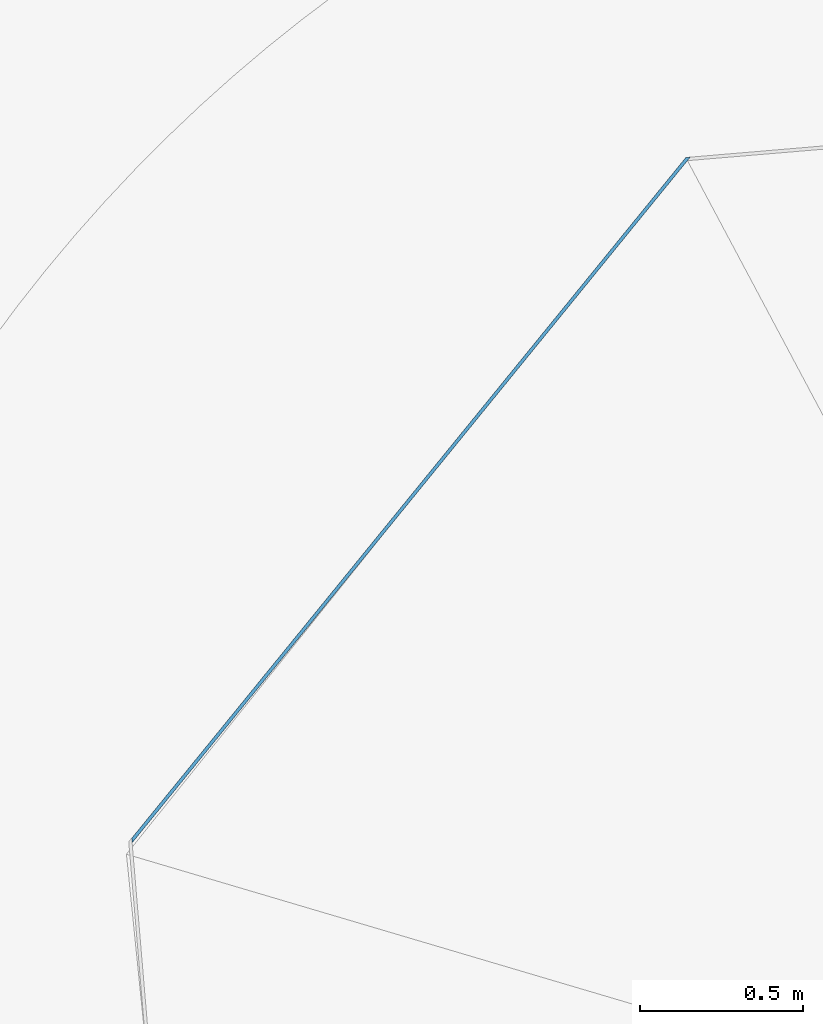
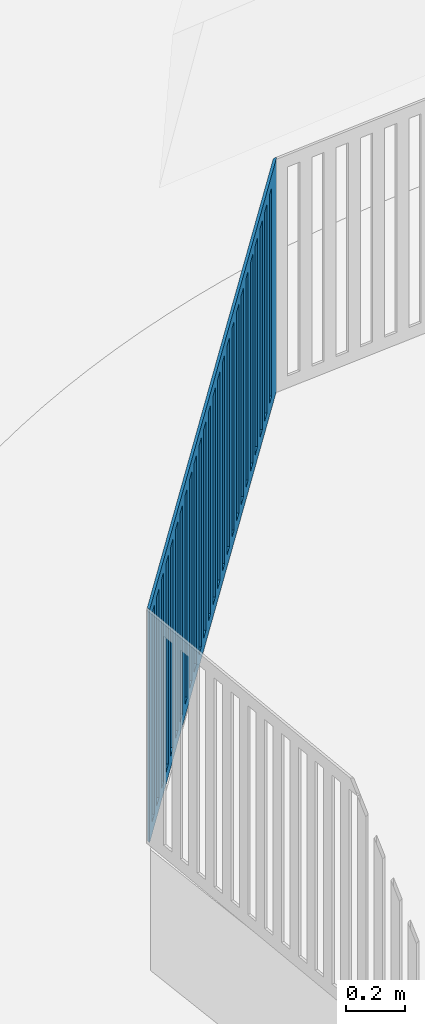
# One storey, part 29 of 75: 1 wall, 26 openings.
"""IFC2X3 building model written with IfcOpenShell, lengths in metres."""

import ifcopenshell
import ifcopenshell.guid

model = None  # the IFC model being written
_history = None  # IfcOwnerHistory: only IFC2X3 demands one
_inside = {}  # id of a spatial element -> (the spatial element, [elements in it])
_under = {}  # id of a project, library or spatial element -> (it, [spatial elements below it])
_declared = {}  # id of a project -> (the project, [libraries it declares])
_typed = {}  # id of a type object -> (the type object, [elements of that type])
_made_of = {}  # id of a material, layer set ... -> (it, [elements and type objects made of it])


def new_model(schema):
    """Start an empty IFC model of exactly this schema.

    Asked for "IFC4X3", IfcOpenShell would pick the latest addendum, in which some entities
    have other attributes; the version numbers below select the first issue.
    IFC2X3 requires an IfcOwnerHistory on every rooted entity: one is made here for all.
    """
    global model, _history
    if schema == "IFC4X3":
        model = ifcopenshell.file(schema_version=(4, 3, 0, 0))
    else:
        model = ifcopenshell.file(schema=schema)
    _inside.clear()
    _under.clear()
    _declared.clear()
    _typed.clear()
    _made_of.clear()
    _history = None
    if model.schema == "IFC2X3":
        org = make("IfcOrganization", Name="unknown")
        user = make(
            "IfcPersonAndOrganization",
            ThePerson=make("IfcPerson", FamilyName="unknown"),
            TheOrganization=org,
        )
        app = make(
            "IfcApplication",
            ApplicationDeveloper=org,
            Version="unknown",
            ApplicationFullName="unknown",
            ApplicationIdentifier="unknown",
        )
        _history = make(
            "IfcOwnerHistory",
            OwningUser=user,
            OwningApplication=app,
            ChangeAction="ADDED",
            CreationDate=0,
        )
    return model


def make(cls, **values):
    """One entity of the class cls with the attributes given. An attribute that is None is left unset."""
    return model.create_entity(
        cls, **{name: value for name, value in values.items() if value is not None}
    )


def entity(cls, *values):
    """Any entity or typed value of the class cls, its attributes in the order of the schema. None: left unset."""
    e = model.create_entity(cls)
    for i, value in enumerate(values):
        if value is not None:
            e[i] = value
    return e


def rooted(cls, **values):
    """An entity with a GlobalId (a new one), such as an element, a storey or a relation."""
    return make(cls, GlobalId=ifcopenshell.guid.new(), OwnerHistory=_history, **values)


def si_unit(unit_type, name, prefix=None):
    """IfcSIUnit, for example si_unit("LENGTHUNIT", "METRE", prefix="MILLI")."""
    return make("IfcSIUnit", UnitType=unit_type, Prefix=prefix, Name=name)


def converted_unit(unit_type, name, factor, base, dimensions=None, offset=None):
    """IfcConversionBasedUnit, such as the inch: factor (a typed value) times the base unit."""
    return make(
        "IfcConversionBasedUnit"
        if offset is None
        else "IfcConversionBasedUnitWithOffset",
        ConversionOffset=offset,
        Dimensions=None
        if dimensions is None
        else entity("IfcDimensionalExponents", *dimensions),
        UnitType=unit_type,
        Name=name,
        ConversionFactor=make(
            "IfcMeasureWithUnit", ValueComponent=factor, UnitComponent=base
        ),
    )


def derived_unit(unit_type, elements):
    """IfcDerivedUnit: a product of units, each with its exponent."""
    return make(
        "IfcDerivedUnit",
        Elements=[
            make("IfcDerivedUnitElement", Unit=unit, Exponent=power)
            for unit, power in elements
        ],
        UnitType=unit_type,
    )


def assignment(units):
    """IfcUnitAssignment: the units of a project."""
    return None if units is None else make("IfcUnitAssignment", Units=units)


def point(xyz):
    """IfcCartesianPoint."""
    return None if xyz is None else make("IfcCartesianPoint", Coordinates=xyz)


def direction(xyz):
    """IfcDirection."""
    return None if xyz is None else make("IfcDirection", DirectionRatios=xyz)


def frame(location, z_axis=None, x_axis=None):
    """IfcAxis2Placement3D, a coordinate frame: its origin and axes. An axis left out is left unset."""
    return make(
        "IfcAxis2Placement3D",
        Location=point(location),
        Axis=direction(z_axis),
        RefDirection=direction(x_axis),
    )


def frame_2d(location, x_axis=None):
    """IfcAxis2Placement2D, a coordinate frame in the plane: its origin and x axis."""
    return make(
        "IfcAxis2Placement2D", Location=point(location), RefDirection=direction(x_axis)
    )


def origin():
    """The frame at (0, 0, 0) with its axes left unset."""
    return frame((0.0, 0.0, 0.0))


def origin_2d_with_axis():
    """The frame at (0, 0) in the plane with the x axis (1, 0) written out."""
    return frame_2d((0.0, 0.0), x_axis=(1.0, 0.0))


def place(relative_to, where):
    """IfcLocalPlacement: puts the frame where relative to a parent placement (None: the world)."""
    return make(
        "IfcLocalPlacement", PlacementRelTo=relative_to, RelativePlacement=where
    )


def context(
    kind, dimensions, precision=None, world=None, true_north=None, identifier=None
):
    """IfcGeometricRepresentationContext, for example the 3D "Model" context."""
    return make(
        "IfcGeometricRepresentationContext",
        ContextIdentifier=identifier,
        ContextType=kind,
        CoordinateSpaceDimension=dimensions,
        Precision=precision,
        WorldCoordinateSystem=world,
        TrueNorth=true_north,
    )


def subcontext(parent, identifier, kind, view, scale=None):
    """IfcGeometricRepresentationSubContext, for example "Body" below "Model"."""
    return make(
        "IfcGeometricRepresentationSubContext",
        ContextIdentifier=identifier,
        ContextType=kind,
        ParentContext=parent,
        TargetScale=scale,
        TargetView=view,
    )


def project(units=None, contexts=None):
    """IfcProject with its units and contexts."""
    return rooted(
        "IfcProject",
        Name="project",
        RepresentationContexts=contexts,
        UnitsInContext=assignment(units),
    )


def spatial(cls, under=None, at=None, **own):
    """A site, building, storey or space (cls), placed at a placement, below another one or the project."""
    s = rooted(cls, ObjectPlacement=at, **own)
    if under is not None:
        _under.setdefault(under.id(), (under, []))[1].append(s)
    return s


def polyline(points):
    """IfcPolyline through the points."""
    return make("IfcPolyline", Points=[point(p) for p in points])


def profile(cls, at=None, kind="AREA", **sizes):
    """A parametric profile (cls). Its sizes go by their IFC names, for example OverallWidth=200.0."""
    return make(cls, ProfileType=kind, Position=at, **sizes)


def rectangle(**sizes):
    """IfcRectangleProfileDef."""
    return profile("IfcRectangleProfileDef", **sizes)


def outline(outer, holes=None, kind="AREA"):
    """IfcArbitraryClosedProfileDef: a profile drawn as a closed curve; with holes, ...WithVoids."""
    if holes is None:
        return make("IfcArbitraryClosedProfileDef", ProfileType=kind, OuterCurve=outer)
    return make(
        "IfcArbitraryProfileDefWithVoids",
        ProfileType=kind,
        OuterCurve=outer,
        InnerCurves=holes,
    )


def extrude(swept, where, along, depth):
    """IfcExtrudedAreaSolid: the profile swept, set in the frame where, extruded along a direction by depth."""
    return make(
        "IfcExtrudedAreaSolid",
        SweptArea=swept,
        Position=where,
        ExtrudedDirection=direction(along),
        Depth=depth,
    )


def shape(context_of_items, identifier, shape_type, items):
    """IfcShapeRepresentation: the items that make up one representation, for example the "Body"."""
    return make(
        "IfcShapeRepresentation",
        ContextOfItems=context_of_items,
        RepresentationIdentifier=identifier,
        RepresentationType=shape_type,
        Items=items,
    )


def material(Name=None, Category=None):
    """IfcMaterial."""
    return make("IfcMaterial", Name=Name, Category=Category)


def layer(
    of_material, thickness, ventilated=None, Name=None, Category=None, Priority=None
):
    """IfcMaterialLayer: one layer of a wall or slab, of a material (None: an air gap)."""
    return make(
        "IfcMaterialLayer",
        Material=of_material,
        LayerThickness=thickness,
        IsVentilated=ventilated,
        Name=Name,
        Category=Category,
        Priority=Priority,
    )


def layer_set(layers, Name=None):
    """IfcMaterialLayerSet."""
    return make("IfcMaterialLayerSet", MaterialLayers=layers, LayerSetName=Name)


def layer_usage(for_layer_set, set_direction, sense, offset, extent=None):
    """IfcMaterialLayerSetUsage: how a layer set lies in its element."""
    return make(
        "IfcMaterialLayerSetUsage",
        ForLayerSet=for_layer_set,
        LayerSetDirection=set_direction,
        DirectionSense=sense,
        OffsetFromReferenceLine=offset,
        ReferenceExtent=extent,
    )


def made_of(thing, what):
    """Note that an element or type object is made of a material, layer set ...; save() writes the relation."""
    if what is not None:
        _made_of.setdefault(what.id(), (what, []))[1].append(thing)
    return thing


def type_object(cls, material=None, **own):
    """A type object (cls), such as IfcWallType, which elements share."""
    return made_of(rooted(cls, **own), material)


def element(
    cls,
    number,
    at=None,
    inside=None,
    cuts=None,
    type_object=None,
    material=None,
    context=None,
    identifier="Body",
    shape_type=None,
    held_by="IfcProductDefinitionShape",
    body=None,
    shapes=None,
    **own,
):
    """One element of the class cls, such as IfcWall. Its Tag is "e" and its number.

    at: its placement. inside: the storey or other place that contains it. cuts: it is an
    opening in that element (IfcRelVoidsElement). A single representation is given by context,
    identifier, shape_type and body (its items); several are given by shapes. held_by: the class
    of the entity that holds the representations. save() writes the other relations.
    """
    e = rooted(cls, Tag="e%d" % number, ObjectPlacement=at, **own)
    if body is not None:
        shapes = [shape(context, identifier, shape_type, body)]
    if shapes is not None:
        e.Representation = make(held_by, Representations=shapes)
    if inside is not None:
        _inside.setdefault(inside.id(), (inside, []))[1].append(e)
    if cuts is not None:
        rooted(
            "IfcRelVoidsElement", RelatingBuildingElement=cuts, RelatedOpeningElement=e
        )
    if type_object is not None:
        _typed.setdefault(type_object.id(), (type_object, []))[1].append(e)
    return made_of(e, material)


def aggregate(whole, parts):
    """IfcRelAggregates: a whole, such as a stair, and the parts it consists of."""
    return rooted("IfcRelAggregates", RelatingObject=whole, RelatedObjects=parts)


def save(model, path):
    """Write the relations noted so far, then the file.

    IfcRelAggregates (storeys below a building ...), IfcRelContainedInSpatialStructure (elements
    in a storey), IfcRelDefinesByType, IfcRelAssociatesMaterial and IfcRelDeclares: one each for
    every whole, place, type object, material and project.
    """
    for whole, parts in _under.values():
        aggregate(whole, parts)
    for where, things in _inside.values():
        rooted(
            "IfcRelContainedInSpatialStructure",
            RelatedElements=things,
            RelatingStructure=where,
        )
    for kind, things in _typed.values():
        rooted("IfcRelDefinesByType", RelatedObjects=things, RelatingType=kind)
    for what, things in _made_of.values():
        rooted("IfcRelAssociatesMaterial", RelatedObjects=things, RelatingMaterial=what)
    for by, libraries in _declared.values():
        rooted("IfcRelDeclares", RelatingContext=by, RelatedDefinitions=libraries)
    model.write(path)


model = new_model("IFC2X3")

# Units and contexts
model_context = context("Model", 3, precision=1e-05, world=origin(), true_north=direction((6.123031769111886e-17, 1.0)))
body_context = subcontext(model_context, "Body", "Model", "MODEL_VIEW")
ifc_project = project(units=[si_unit("LENGTHUNIT", "METRE"), si_unit("AREAUNIT", "SQUARE_METRE"), si_unit("VOLUMEUNIT", "CUBIC_METRE"), converted_unit("PLANEANGLEUNIT", "DEGREE", entity("IfcRatioMeasure", 0.017453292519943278), si_unit("PLANEANGLEUNIT", "RADIAN"), dimensions=[0, 0, 0, 0, 0, 0, 0]), si_unit("MASSUNIT", "GRAM", prefix="KILO"), derived_unit("MASSDENSITYUNIT", [(si_unit("MASSUNIT", "GRAM", prefix="KILO"), 1), (si_unit("LENGTHUNIT", "METRE"), -3)]), derived_unit("IONCONCENTRATIONUNIT", [(si_unit("MASSUNIT", "GRAM", prefix="KILO"), 1), (si_unit("LENGTHUNIT", "METRE"), -3)]), derived_unit("MOMENTOFINERTIAUNIT", [(si_unit("LENGTHUNIT", "METRE"), 4)]), si_unit("TIMEUNIT", "SECOND"), si_unit("FREQUENCYUNIT", "HERTZ"), si_unit("THERMODYNAMICTEMPERATUREUNIT", "DEGREE_CELSIUS"), derived_unit("THERMALTRANSMITTANCEUNIT", [(si_unit("MASSUNIT", "GRAM", prefix="KILO"), 1), (si_unit("THERMODYNAMICTEMPERATUREUNIT", "KELVIN"), -1), (si_unit("TIMEUNIT", "SECOND"), -3)]), derived_unit("THERMALCONDUCTANCEUNIT", [(si_unit("MASSUNIT", "GRAM", prefix="KILO"), 1), (si_unit("THERMODYNAMICTEMPERATUREUNIT", "KELVIN"), -1), (si_unit("TIMEUNIT", "SECOND"), -3), (si_unit("LENGTHUNIT", "METRE"), 1)]), derived_unit("VOLUMETRICFLOWRATEUNIT", [(si_unit("LENGTHUNIT", "METRE"), 3), (si_unit("TIMEUNIT", "SECOND"), -1)]), derived_unit("MASSFLOWRATEUNIT", [(si_unit("MASSUNIT", "GRAM", prefix="KILO"), 1), (si_unit("TIMEUNIT", "SECOND"), -1)]), derived_unit("ROTATIONALFREQUENCYUNIT", [(si_unit("TIMEUNIT", "SECOND"), -1)]), si_unit("ELECTRICCURRENTUNIT", "AMPERE"), si_unit("ELECTRICVOLTAGEUNIT", "VOLT"), si_unit("POWERUNIT", "WATT"), si_unit("FORCEUNIT", "NEWTON", prefix="KILO"), si_unit("ILLUMINANCEUNIT", "LUX"), si_unit("LUMINOUSFLUXUNIT", "LUMEN"), si_unit("LUMINOUSINTENSITYUNIT", "CANDELA"), derived_unit("USERDEFINED", [(si_unit("MASSUNIT", "GRAM", prefix="KILO"), -1), (si_unit("LENGTHUNIT", "METRE"), -2), (si_unit("TIMEUNIT", "SECOND"), 3), (si_unit("LUMINOUSFLUXUNIT", "LUMEN"), 1)]), derived_unit("USERDEFINED", [(si_unit("MASSUNIT", "GRAM", prefix="KILO"), 1), (si_unit("TIMEUNIT", "SECOND"), -3), (si_unit("LENGTHUNIT", "METRE"), 3), (si_unit("ELECTRICCURRENTUNIT", "AMPERE"), -2)]), derived_unit("SOUNDPOWERUNIT", [(si_unit("MASSUNIT", "GRAM", prefix="KILO"), 1), (si_unit("TIMEUNIT", "SECOND"), -3), (si_unit("LENGTHUNIT", "METRE"), 2)]), derived_unit("SOUNDPRESSUREUNIT", [(si_unit("MASSUNIT", "GRAM", prefix="KILO"), 1), (si_unit("LENGTHUNIT", "METRE"), -1), (si_unit("TIMEUNIT", "SECOND"), -2)]), derived_unit("LINEARVELOCITYUNIT", [(si_unit("LENGTHUNIT", "METRE"), 1), (si_unit("TIMEUNIT", "SECOND"), -1)]), si_unit("PRESSUREUNIT", "PASCAL"), derived_unit("USERDEFINED", [(si_unit("MASSUNIT", "GRAM", prefix="KILO"), 1), (si_unit("LENGTHUNIT", "METRE"), -2), (si_unit("TIMEUNIT", "SECOND"), -2)]), derived_unit("LINEARFORCEUNIT", [(si_unit("MASSUNIT", "GRAM", prefix="KILO"), 1), (si_unit("TIMEUNIT", "SECOND"), -2)]), derived_unit("PLANARFORCEUNIT", [(si_unit("MASSUNIT", "GRAM", prefix="KILO"), 1), (si_unit("LENGTHUNIT", "METRE"), -1), (si_unit("TIMEUNIT", "SECOND"), -2)]), derived_unit("SPECIFICHEATCAPACITYUNIT", [(si_unit("THERMODYNAMICTEMPERATUREUNIT", "KELVIN"), -1), (si_unit("LENGTHUNIT", "METRE"), 2), (si_unit("TIMEUNIT", "SECOND"), -2)]), derived_unit("HEATINGVALUEUNIT", [(si_unit("LENGTHUNIT", "METRE"), 2), (si_unit("TIMEUNIT", "SECOND"), -2)]), derived_unit("VAPORPERMEABILITYUNIT", [(si_unit("LENGTHUNIT", "METRE"), -1), (si_unit("TIMEUNIT", "SECOND"), 1)]), derived_unit("DYNAMICVISCOSITYUNIT", [(si_unit("MASSUNIT", "GRAM", prefix="KILO"), 1), (si_unit("TIMEUNIT", "SECOND"), -1), (si_unit("LENGTHUNIT", "METRE"), -1)]), derived_unit("THERMALEXPANSIONCOEFFICIENTUNIT", [(si_unit("THERMODYNAMICTEMPERATUREUNIT", "KELVIN"), -1)]), derived_unit("MODULUSOFELASTICITYUNIT", [(si_unit("MASSUNIT", "GRAM", prefix="KILO"), 1), (si_unit("LENGTHUNIT", "METRE"), -1), (si_unit("TIMEUNIT", "SECOND"), -2)]), derived_unit("ISOTHERMALMOISTURECAPACITYUNIT", [(si_unit("LENGTHUNIT", "METRE"), 3), (si_unit("MASSUNIT", "GRAM", prefix="KILO"), -1)]), derived_unit("MOISTUREDIFFUSIVITYUNIT", [(si_unit("TIMEUNIT", "SECOND"), -1), (si_unit("LENGTHUNIT", "METRE"), 2)])], contexts=[model_context])

# Site, building, storey
site_placement = place(None, origin())
site = spatial("IfcSite", under=ifc_project, at=site_placement, Name="Default", CompositionType="ELEMENT")
building_placement = place(site_placement, origin())
building = spatial("IfcBuilding", under=site, at=building_placement, Name="Projeto", CompositionType="ELEMENT")
storey_placement = place(building_placement, origin())
storey = spatial("IfcBuildingStorey", under=building, at=storey_placement, Name="Nível 1", CompositionType="ELEMENT", Elevation=0.0)

# Wall, openings
ifc_material = material(Name=".ARQ.PIS - CONTRAPISO.ARMADO")
ifc_layer = layer(ifc_material, 0.01)
ifc_layer_set = layer_set([ifc_layer], Name="Parede básica:15cm 2")
ifc_layer_usage = layer_usage(ifc_layer_set, "AXIS2", "POSITIVE", -0.005000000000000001)
wall_type = type_object("IfcWallType", Name="Parede básica:15cm 2", PredefinedType="STANDARD", material=ifc_layer_set)
wall_placement = place(storey_placement, frame((18.288066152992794, 34.89765457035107, -2.1), z_axis=(0.0, 0.0, 1.0), x_axis=(-0.6313151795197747, -0.775526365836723, 0.0)))
wall = element("IfcWallStandardCase", 1, at=wall_placement, inside=storey, type_object=wall_type, material=ifc_layer_usage, Name="Parede básica:15cm 2", ObjectType="Parede básica:15cm 2", context=body_context, shape_type="SweptSolid", body=[
    extrude(outline(polyline([(1.1549802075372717, -1.122195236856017), (1.1693857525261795, -1.122195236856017), (-0.7681219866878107, 0.7463317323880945), (-0.7781219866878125, 0.7559757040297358), (-0.7781219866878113, 0.7420830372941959), (1.1549802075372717, -1.122195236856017)])), frame((1.084876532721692, 0.0009999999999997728, 0.0), z_axis=(0.0, 0.0, 1.0), x_axis=(0.719804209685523, 0.6941771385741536, 0.0)), (0.0, 0.0, 1.0), 0.964009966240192),
])
opening_1_placement = place(storey_placement, frame((18.288066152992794, 34.89765457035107, -2.1), z_axis=(0.0, 0.0, 1.0), x_axis=(-0.6313151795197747, -0.775526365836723, 0.0)))
element("IfcOpeningElement", 2, at=opening_1_placement, cuts=wall, Name="Parede básica:15cm 2:1", ObjectType="Opening", context=body_context, shape_type="SweptSolid", body=[
    extrude(rectangle(XDim=0.8640099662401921, YDim=0.050000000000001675, at=frame_2d((-1.3877787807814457e-16, -5.410602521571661e-15), x_axis=(1.0, 0.0))), frame((2.6326257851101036, -0.004999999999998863, 0.4820049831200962), z_axis=(0.0, 1.0, 0.0), x_axis=(0.0, 0.0, 1.0)), (0.0, 0.0, 1.0), 0.010000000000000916),
])
opening_2_placement = place(storey_placement, frame((18.288066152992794, 34.89765457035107, -2.1), z_axis=(0.0, 0.0, 1.0), x_axis=(-0.6313151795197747, -0.775526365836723, 0.0)))
element("IfcOpeningElement", 3, at=opening_2_placement, cuts=wall, Name="Parede básica:15cm 2:2", ObjectType="Opening", context=body_context, shape_type="SweptSolid", body=[
    extrude(rectangle(XDim=0.8640099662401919, YDim=0.050000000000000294, at=frame_2d((0.0, -2.3592239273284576e-15), x_axis=(1.0, 0.0))), frame((2.5326257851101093, -0.004999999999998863, 0.48200498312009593), z_axis=(0.0, 1.0, 0.0), x_axis=(0.0, 0.0, 1.0)), (0.0, 0.0, 1.0), 0.010000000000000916),
])
opening_3_placement = place(storey_placement, frame((18.288066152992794, 34.89765457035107, -2.1), z_axis=(0.0, 0.0, 1.0), x_axis=(-0.6313151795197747, -0.775526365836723, 0.0)))
element("IfcOpeningElement", 4, at=opening_3_placement, cuts=wall, Name="Parede básica:15cm 2:3", ObjectType="Opening", context=body_context, shape_type="SweptSolid", body=[
    extrude(rectangle(XDim=0.8640099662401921, YDim=0.049999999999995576, at=frame_2d((-1.1102230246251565e-16, -6.800116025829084e-16), x_axis=(1.0, 0.0))), frame((2.43262578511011, -0.005000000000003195, 0.48200498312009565), z_axis=(0.0, 1.0, 0.0), x_axis=(0.0, 0.0, 1.0)), (0.0, 0.0, 1.0), 0.010000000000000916),
])
opening_4_placement = place(storey_placement, frame((18.288066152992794, 34.89765457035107, -2.1), z_axis=(0.0, 0.0, 1.0), x_axis=(-0.6313151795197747, -0.775526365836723, 0.0)))
element("IfcOpeningElement", 5, at=opening_4_placement, cuts=wall, Name="Parede básica:15cm 2:4", ObjectType="Opening", context=body_context, shape_type="SweptSolid", body=[
    extrude(rectangle(XDim=0.8640099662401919, YDim=0.050000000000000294, at=frame_2d((0.0, 1.6792123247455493e-15), x_axis=(1.0, 0.0))), frame((2.3326257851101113, -0.005000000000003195, 0.48200498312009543), z_axis=(0.0, 1.0, 0.0), x_axis=(0.0, 0.0, 1.0)), (0.0, 0.0, 1.0), 0.010000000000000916),
])
opening_5_placement = place(storey_placement, frame((18.288066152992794, 34.89765457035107, -2.1), z_axis=(0.0, 0.0, 1.0), x_axis=(-0.6313151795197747, -0.775526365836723, 0.0)))
element("IfcOpeningElement", 6, at=opening_5_placement, cuts=wall, Name="Parede básica:15cm 2:5", ObjectType="Opening", context=body_context, shape_type="SweptSolid", body=[
    extrude(rectangle(XDim=0.8640099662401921, YDim=0.05000000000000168, at=frame_2d((-1.3877787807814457e-16, 0.0), x_axis=(1.0, 0.0))), frame((2.232625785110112, -0.005000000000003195, 0.48200498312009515), z_axis=(0.0, 1.0, 0.0), x_axis=(0.0, 0.0, 1.0)), (0.0, 0.0, 1.0), 0.010000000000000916),
])
opening_6_placement = place(storey_placement, frame((18.288066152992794, 34.89765457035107, -2.1), z_axis=(0.0, 0.0, 1.0), x_axis=(-0.6313151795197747, -0.775526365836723, 0.0)))
element("IfcOpeningElement", 7, at=opening_6_placement, cuts=wall, Name="Parede básica:15cm 2:6", ObjectType="Opening", context=body_context, shape_type="SweptSolid", body=[
    extrude(rectangle(XDim=0.8640099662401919, YDim=0.049999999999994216, at=origin_2d_with_axis()), frame((2.132625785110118, -0.005000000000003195, 0.4820049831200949), z_axis=(0.0, 1.0, 0.0), x_axis=(0.0, 0.0, 1.0)), (0.0, 0.0, 1.0), 0.010000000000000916),
])
opening_7_placement = place(storey_placement, frame((18.288066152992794, 34.89765457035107, -2.1), z_axis=(0.0, 0.0, 1.0), x_axis=(-0.6313151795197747, -0.775526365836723, 0.0)))
element("IfcOpeningElement", 8, at=opening_7_placement, cuts=wall, Name="Parede básica:15cm 2:7", ObjectType="Opening", context=body_context, shape_type="SweptSolid", body=[
    extrude(rectangle(XDim=0.8640099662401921, YDim=0.049999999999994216, at=frame_2d((-1.3877787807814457e-16, 6.83481049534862e-16), x_axis=(1.0, 0.0))), frame((2.0326257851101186, -0.004999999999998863, 0.4820049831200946), z_axis=(0.0, 1.0, 0.0), x_axis=(0.0, 0.0, 1.0)), (0.0, 0.0, 1.0), 0.010000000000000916),
])
opening_8_placement = place(storey_placement, frame((18.288066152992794, 34.89765457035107, -2.1), z_axis=(0.0, 0.0, 1.0), x_axis=(-0.6313151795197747, -0.775526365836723, 0.0)))
element("IfcOpeningElement", 9, at=opening_8_placement, cuts=wall, Name="Parede básica:15cm 2:8", ObjectType="Opening", context=body_context, shape_type="SweptSolid", body=[
    extrude(rectangle(XDim=0.8640099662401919, YDim=0.050000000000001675, at=frame_2d((0.0, -6.83481049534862e-16), x_axis=(1.0, 0.0))), frame((1.9326257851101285, -0.004999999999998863, 0.4820049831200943), z_axis=(0.0, 1.0, 0.0), x_axis=(0.0, 0.0, 1.0)), (0.0, 0.0, 1.0), 0.010000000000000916),
])
opening_9_placement = place(storey_placement, frame((18.288066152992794, 34.89765457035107, -2.1), z_axis=(0.0, 0.0, 1.0), x_axis=(-0.6313151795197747, -0.775526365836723, 0.0)))
element("IfcOpeningElement", 10, at=opening_9_placement, cuts=wall, Name="Parede básica:15cm 2:9", ObjectType="Opening", context=body_context, shape_type="SweptSolid", body=[
    extrude(rectangle(XDim=0.8640099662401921, YDim=0.050000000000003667, at=frame_2d((-1.3877787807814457e-16, -2.3626933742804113e-15), x_axis=(1.0, 0.0))), frame((1.8326257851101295, -0.004999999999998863, 0.48200498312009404), z_axis=(0.0, 1.0, 0.0), x_axis=(0.0, 0.0, 1.0)), (0.0, 0.0, 1.0), 0.010000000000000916),
])
opening_10_placement = place(storey_placement, frame((18.288066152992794, 34.89765457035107, -2.1), z_axis=(0.0, 0.0, 1.0), x_axis=(-0.6313151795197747, -0.775526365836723, 0.0)))
element("IfcOpeningElement", 11, at=opening_10_placement, cuts=wall, Name="Parede básica:15cm 2:10", ObjectType="Opening", context=body_context, shape_type="SweptSolid", body=[
    extrude(rectangle(XDim=0.8640099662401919, YDim=0.049999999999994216, at=origin_2d_with_axis()), frame((1.732625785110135, -0.004999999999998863, 0.48200498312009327), z_axis=(0.0, 1.0, 0.0), x_axis=(0.0, 0.0, 1.0)), (0.0, 0.0, 1.0), 0.010000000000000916),
])
opening_11_placement = place(storey_placement, frame((18.288066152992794, 34.89765457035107, -2.1), z_axis=(0.0, 0.0, 1.0), x_axis=(-0.6313151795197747, -0.775526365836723, 0.0)))
element("IfcOpeningElement", 12, at=opening_11_placement, cuts=wall, Name="Parede básica:15cm 2:11", ObjectType="Opening", context=body_context, shape_type="SweptSolid", body=[
    extrude(rectangle(XDim=0.8640099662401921, YDim=0.0500000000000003, at=frame_2d((-1.3877787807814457e-16, -1.6792123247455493e-15), x_axis=(1.0, 0.0))), frame((1.632625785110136, -0.005000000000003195, 0.482004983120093), z_axis=(0.0, 1.0, 0.0), x_axis=(0.0, 0.0, 1.0)), (0.0, 0.0, 1.0), 0.010000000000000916),
])
opening_12_placement = place(storey_placement, frame((18.288066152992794, 34.89765457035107, -2.1), z_axis=(0.0, 0.0, 1.0), x_axis=(-0.6313151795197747, -0.775526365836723, 0.0)))
element("IfcOpeningElement", 13, at=opening_12_placement, cuts=wall, Name="Parede básica:15cm 2:12", ObjectType="Opening", context=body_context, shape_type="SweptSolid", body=[
    extrude(rectangle(XDim=0.8640099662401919, YDim=0.04999999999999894, at=frame_2d((0.0, -2.3626933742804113e-15), x_axis=(1.0, 0.0))), frame((1.5326257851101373, -0.005000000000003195, 0.4820049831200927), z_axis=(0.0, 1.0, 0.0), x_axis=(0.0, 0.0, 1.0)), (0.0, 0.0, 1.0), 0.010000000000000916),
])
opening_13_placement = place(storey_placement, frame((18.288066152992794, 34.89765457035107, -2.1), z_axis=(0.0, 0.0, 1.0), x_axis=(-0.6313151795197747, -0.775526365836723, 0.0)))
element("IfcOpeningElement", 14, at=opening_13_placement, cuts=wall, Name="Parede básica:15cm 2:13", ObjectType="Opening", context=body_context, shape_type="SweptSolid", body=[
    extrude(rectangle(XDim=0.8640099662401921, YDim=0.049999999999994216, at=frame_2d((-1.3877787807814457e-16, 0.0), x_axis=(1.0, 0.0))), frame((1.4326257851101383, -0.005000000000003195, 0.48200498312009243), z_axis=(0.0, 1.0, 0.0), x_axis=(0.0, 0.0, 1.0)), (0.0, 0.0, 1.0), 0.010000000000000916),
])
opening_14_placement = place(storey_placement, frame((18.288066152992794, 34.89765457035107, -2.1), z_axis=(0.0, 0.0, 1.0), x_axis=(-0.6313151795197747, -0.775526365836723, 0.0)))
element("IfcOpeningElement", 15, at=opening_14_placement, cuts=wall, Name="Parede básica:15cm 2:14", ObjectType="Opening", context=body_context, shape_type="SweptSolid", body=[
    extrude(rectangle(XDim=0.8640099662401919, YDim=0.049999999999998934, at=frame_2d((0.0, -2.3592239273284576e-15), x_axis=(1.0, 0.0))), frame((1.3326257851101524, -0.005000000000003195, 0.48200498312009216), z_axis=(0.0, 1.0, 0.0), x_axis=(0.0, 0.0, 1.0)), (0.0, 0.0, 1.0), 0.010000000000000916),
])
opening_15_placement = place(storey_placement, frame((18.288066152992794, 34.89765457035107, -2.1), z_axis=(0.0, 0.0, 1.0), x_axis=(-0.6313151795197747, -0.775526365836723, 0.0)))
element("IfcOpeningElement", 16, at=opening_15_placement, cuts=wall, Name="Parede básica:15cm 2:15", ObjectType="Opening", context=body_context, shape_type="SweptSolid", body=[
    extrude(rectangle(XDim=0.8640099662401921, YDim=0.049999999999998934, at=frame_2d((-1.3877787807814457e-16, -4.723652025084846e-15), x_axis=(1.0, 0.0))), frame((1.232625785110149, -0.005000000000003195, 0.4820049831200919), z_axis=(0.0, 1.0, 0.0), x_axis=(0.0, 0.0, 1.0)), (0.0, 0.0, 1.0), 0.010000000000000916),
])
opening_16_placement = place(storey_placement, frame((18.288066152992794, 34.89765457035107, -2.1), z_axis=(0.0, 0.0, 1.0), x_axis=(-0.6313151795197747, -0.775526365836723, 0.0)))
element("IfcOpeningElement", 17, at=opening_16_placement, cuts=wall, Name="Parede básica:15cm 2:16", ObjectType="Opening", context=body_context, shape_type="SweptSolid", body=[
    extrude(rectangle(XDim=0.8640099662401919, YDim=0.04999999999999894, at=frame_2d((0.0, -2.3626933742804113e-15), x_axis=(1.0, 0.0))), frame((1.1326257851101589, -0.004999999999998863, 0.4820049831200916), z_axis=(0.0, 1.0, 0.0), x_axis=(0.0, 0.0, 1.0)), (0.0, 0.0, 1.0), 0.010000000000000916),
])
opening_17_placement = place(storey_placement, frame((18.288066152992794, 34.89765457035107, -2.1), z_axis=(0.0, 0.0, 1.0), x_axis=(-0.6313151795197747, -0.775526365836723, 0.0)))
element("IfcOpeningElement", 18, at=opening_17_placement, cuts=wall, Name="Parede básica:15cm 2:17", ObjectType="Opening", context=body_context, shape_type="SweptSolid", body=[
    extrude(rectangle(XDim=0.8640099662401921, YDim=0.049999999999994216, at=frame_2d((-1.1102230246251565e-16, 0.0), x_axis=(1.0, 0.0))), frame((1.0326257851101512, -0.004999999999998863, 0.4820049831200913), z_axis=(0.0, 1.0, 0.0), x_axis=(0.0, 0.0, 1.0)), (0.0, 0.0, 1.0), 0.010000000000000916),
])
opening_18_placement = place(storey_placement, frame((18.288066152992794, 34.89765457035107, -2.1), z_axis=(0.0, 0.0, 1.0), x_axis=(-0.6313151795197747, -0.775526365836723, 0.0)))
element("IfcOpeningElement", 19, at=opening_18_placement, cuts=wall, Name="Parede básica:15cm 2:18", ObjectType="Opening", context=body_context, shape_type="SweptSolid", body=[
    extrude(rectangle(XDim=0.8640099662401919, YDim=0.0500000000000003, at=frame_2d((0.0, -1.6792123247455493e-15), x_axis=(1.0, 0.0))), frame((0.9326257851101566, -0.005000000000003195, 0.4820049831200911), z_axis=(0.0, 1.0, 0.0), x_axis=(0.0, 0.0, 1.0)), (0.0, 0.0, 1.0), 0.010000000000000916),
])
opening_19_placement = place(storey_placement, frame((18.288066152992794, 34.89765457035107, -2.1), z_axis=(0.0, 0.0, 1.0), x_axis=(-0.6313151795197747, -0.775526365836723, 0.0)))
element("IfcOpeningElement", 20, at=opening_19_placement, cuts=wall, Name="Parede básica:15cm 2:19", ObjectType="Opening", context=body_context, shape_type="SweptSolid", body=[
    extrude(rectangle(XDim=0.8640099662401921, YDim=0.049999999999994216, at=frame_2d((-1.3877787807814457e-16, 0.0), x_axis=(1.0, 0.0))), frame((0.8326257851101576, -0.005000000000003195, 0.48200498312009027), z_axis=(0.0, 1.0, 0.0), x_axis=(0.0, 0.0, 1.0)), (0.0, 0.0, 1.0), 0.010000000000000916),
])
opening_20_placement = place(storey_placement, frame((18.288066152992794, 34.89765457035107, -2.1), z_axis=(0.0, 0.0, 1.0), x_axis=(-0.6313151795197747, -0.775526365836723, 0.0)))
element("IfcOpeningElement", 21, at=opening_20_placement, cuts=wall, Name="Parede básica:15cm 2:20", ObjectType="Opening", context=body_context, shape_type="SweptSolid", body=[
    extrude(rectangle(XDim=0.8640099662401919, YDim=0.04999999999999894, at=frame_2d((0.0, 2.3626933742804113e-15), x_axis=(1.0, 0.0))), frame((0.7326257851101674, -0.005000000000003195, 0.48200498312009), z_axis=(0.0, 1.0, 0.0), x_axis=(0.0, 0.0, 1.0)), (0.0, 0.0, 1.0), 0.010000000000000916),
])
opening_21_placement = place(storey_placement, frame((18.288066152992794, 34.89765457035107, -2.1), z_axis=(0.0, 0.0, 1.0), x_axis=(-0.6313151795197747, -0.775526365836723, 0.0)))
element("IfcOpeningElement", 22, at=opening_21_placement, cuts=wall, Name="Parede básica:15cm 2:21", ObjectType="Opening", context=body_context, shape_type="SweptSolid", body=[
    extrude(rectangle(XDim=0.8640099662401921, YDim=0.04999999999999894, at=frame_2d((-1.3877787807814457e-16, -2.3626933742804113e-15), x_axis=(1.0, 0.0))), frame((0.6326257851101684, -0.005000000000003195, 0.4820049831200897), z_axis=(0.0, 1.0, 0.0), x_axis=(0.0, 0.0, 1.0)), (0.0, 0.0, 1.0), 0.010000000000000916),
])
opening_22_placement = place(storey_placement, frame((18.288066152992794, 34.89765457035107, -2.1), z_axis=(0.0, 0.0, 1.0), x_axis=(-0.6313151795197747, -0.775526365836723, 0.0)))
element("IfcOpeningElement", 23, at=opening_22_placement, cuts=wall, Name="Parede básica:15cm 2:22", ObjectType="Opening", context=body_context, shape_type="SweptSolid", body=[
    extrude(rectangle(XDim=0.8640099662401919, YDim=0.050000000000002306, at=frame_2d((0.0, 6.817463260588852e-16), x_axis=(1.0, 0.0))), frame((0.5326257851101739, -0.005000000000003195, 0.48200498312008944), z_axis=(0.0, 1.0, 0.0), x_axis=(0.0, 0.0, 1.0)), (0.0, 0.0, 1.0), 0.010000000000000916),
])
opening_23_placement = place(storey_placement, frame((18.288066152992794, 34.89765457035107, -2.1), z_axis=(0.0, 0.0, 1.0), x_axis=(-0.6313151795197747, -0.775526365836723, 0.0)))
element("IfcOpeningElement", 24, at=opening_23_placement, cuts=wall, Name="Parede básica:15cm 2:23", ObjectType="Opening", context=body_context, shape_type="SweptSolid", body=[
    extrude(rectangle(XDim=0.8640099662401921, YDim=0.04999999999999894, at=frame_2d((-1.3877787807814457e-16, -2.3626933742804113e-15), x_axis=(1.0, 0.0))), frame((0.43262578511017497, -0.004999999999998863, 0.48200498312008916), z_axis=(0.0, 1.0, 0.0), x_axis=(0.0, 0.0, 1.0)), (0.0, 0.0, 1.0), 0.010000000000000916),
])
opening_24_placement = place(storey_placement, frame((18.288066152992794, 34.89765457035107, -2.1), z_axis=(0.0, 0.0, 1.0), x_axis=(-0.6313151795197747, -0.775526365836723, 0.0)))
element("IfcOpeningElement", 25, at=opening_24_placement, cuts=wall, Name="Parede básica:15cm 2:24", ObjectType="Opening", context=body_context, shape_type="SweptSolid", body=[
    extrude(rectangle(XDim=0.8640099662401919, YDim=0.04999999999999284, at=frame_2d((0.0, 6.852157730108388e-16), x_axis=(1.0, 0.0))), frame((0.33262578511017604, -0.005000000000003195, 0.48200498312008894), z_axis=(0.0, 1.0, 0.0), x_axis=(0.0, 0.0, 1.0)), (0.0, 0.0, 1.0), 0.010000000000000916),
])
opening_25_placement = place(storey_placement, frame((18.288066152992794, 34.89765457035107, -2.1), z_axis=(0.0, 0.0, 1.0), x_axis=(-0.6313151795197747, -0.775526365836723, 0.0)))
element("IfcOpeningElement", 26, at=opening_25_placement, cuts=wall, Name="Parede básica:15cm 2:25", ObjectType="Opening", context=body_context, shape_type="SweptSolid", body=[
    extrude(rectangle(XDim=0.8640099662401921, YDim=0.049999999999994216, at=frame_2d((-1.1102230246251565e-16, 3.0444397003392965e-15), x_axis=(1.0, 0.0))), frame((0.23262578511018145, -0.004999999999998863, 0.48200498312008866), z_axis=(0.0, 1.0, 0.0), x_axis=(0.0, 0.0, 1.0)), (0.0, 0.0, 1.0), 0.010000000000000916),
])
opening_26_placement = place(storey_placement, frame((18.288066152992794, 34.89765457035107, -2.1), z_axis=(0.0, 0.0, 1.0), x_axis=(-0.6313151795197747, -0.775526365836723, 0.0)))
element("IfcOpeningElement", 27, at=opening_26_placement, cuts=wall, Name="Parede básica:15cm 2:26", ObjectType="Opening", context=body_context, shape_type="SweptSolid", body=[
    extrude(rectangle(XDim=0.8640099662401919, YDim=0.04999999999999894, at=frame_2d((0.0, -2.3626933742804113e-15), x_axis=(1.0, 0.0))), frame((0.13262578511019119, -0.004999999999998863, 0.4820049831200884), z_axis=(0.0, 1.0, 0.0), x_axis=(0.0, 0.0, 1.0)), (0.0, 0.0, 1.0), 0.010000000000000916),
])

save(model, "model.ifc")
